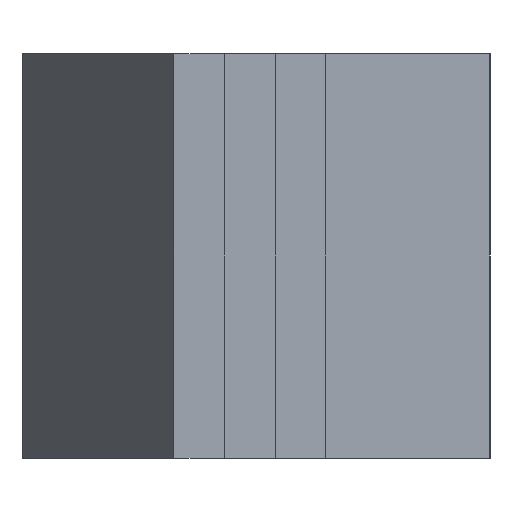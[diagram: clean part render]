
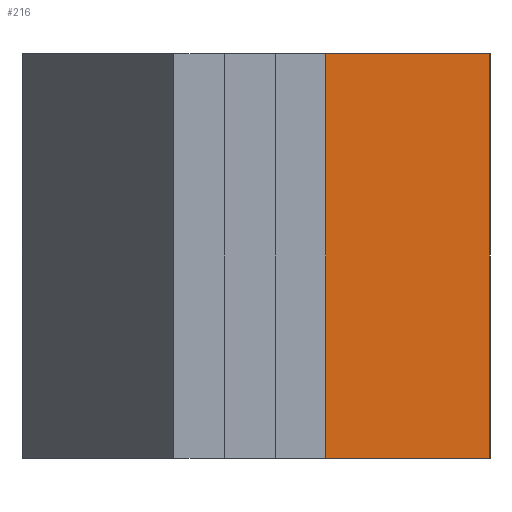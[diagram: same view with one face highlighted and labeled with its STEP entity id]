
A CAD part, left-side view. The second image highlights one B-rep face of the part: STEP entity #216.
In plain terms, the highlighted planar face has unit normal (-1, 0, 0).
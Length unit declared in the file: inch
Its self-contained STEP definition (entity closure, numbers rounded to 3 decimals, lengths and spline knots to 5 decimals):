
#16 = LINE ( 'NONE', #352, #615 ) ;
#39 = CARTESIAN_POINT ( 'NONE',  ( -5., 0.406, -1. ) ) ;
#40 = EDGE_LOOP ( 'NONE', ( #354, #279, #448, #549 ) ) ;
#45 = CARTESIAN_POINT ( 'NONE',  ( -5., 0., -1. ) ) ;
#85 = LINE ( 'NONE', #39, #575 ) ;
#91 = EDGE_CURVE ( 'NONE', #313, #220, #571, .T. ) ;
#98 = PLANE ( 'NONE',  #410 ) ;
#100 = DIRECTION ( 'NONE',  ( 0., 0., 1. ) ) ;
#141 = CARTESIAN_POINT ( 'NONE',  ( -5., 0., 0. ) ) ;
#169 = CARTESIAN_POINT ( 'NONE',  ( -5., 0., 0. ) ) ;
#214 = DIRECTION ( 'NONE',  ( 0., -1., 0. ) ) ;
#216 = ADVANCED_FACE ( 'NONE', ( #494 ), #98, .T. ) ;
#220 = VERTEX_POINT ( 'NONE', #141 ) ;
#224 = VECTOR ( 'NONE', #479, 39.37008 ) ;
#238 = DIRECTION ( 'NONE',  ( 0., 0., 1. ) ) ;
#240 = EDGE_CURVE ( 'NONE', #481, #220, #389, .T. ) ;
#250 = DIRECTION ( 'NONE',  ( 0., 0., 1. ) ) ;
#254 = VECTOR ( 'NONE', #100, 39.37008 ) ;
#279 = ORIENTED_EDGE ( 'NONE', *, *, #592, .F. ) ;
#313 = VERTEX_POINT ( 'NONE', #542 ) ;
#352 = CARTESIAN_POINT ( 'NONE',  ( -5., 0., -1. ) ) ;
#354 = ORIENTED_EDGE ( 'NONE', *, *, #91, .F. ) ;
#386 = EDGE_CURVE ( 'NONE', #462, #481, #16, .T. ) ;
#389 = LINE ( 'NONE', #45, #254 ) ;
#410 = AXIS2_PLACEMENT_3D ( 'NONE', #444, #627, #250 ) ;
#444 = CARTESIAN_POINT ( 'NONE',  ( -5., 0., -1. ) ) ;
#448 = ORIENTED_EDGE ( 'NONE', *, *, #386, .T. ) ;
#462 = VERTEX_POINT ( 'NONE', #609 ) ;
#465 = CARTESIAN_POINT ( 'NONE',  ( -5., 0., -1. ) ) ;
#479 = DIRECTION ( 'NONE',  ( 0., -1., 0. ) ) ;
#481 = VERTEX_POINT ( 'NONE', #465 ) ;
#494 = FACE_OUTER_BOUND ( 'NONE', #40, .T. ) ;
#542 = CARTESIAN_POINT ( 'NONE',  ( -5., 0.406, 0. ) ) ;
#549 = ORIENTED_EDGE ( 'NONE', *, *, #240, .T. ) ;
#571 = LINE ( 'NONE', #169, #224 ) ;
#575 = VECTOR ( 'NONE', #238, 39.37008 ) ;
#592 = EDGE_CURVE ( 'NONE', #462, #313, #85, .T. ) ;
#609 = CARTESIAN_POINT ( 'NONE',  ( -5., 0.406, -1. ) ) ;
#615 = VECTOR ( 'NONE', #214, 39.37008 ) ;
#627 = DIRECTION ( 'NONE',  ( -1., 0., 0. ) ) ;
